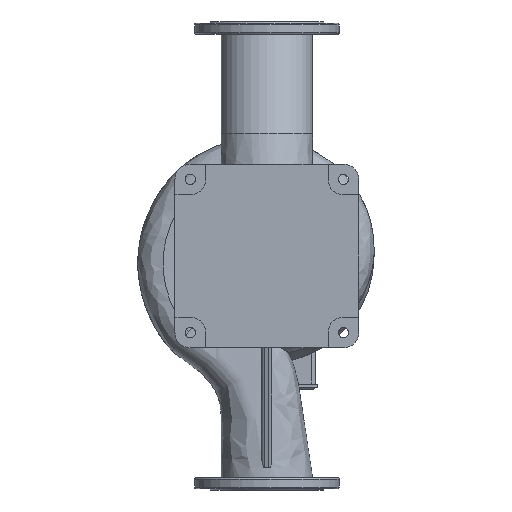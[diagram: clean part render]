
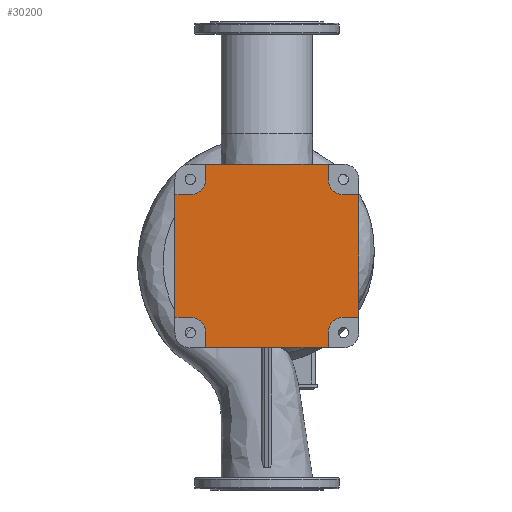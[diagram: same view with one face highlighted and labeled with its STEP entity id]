
A CAD part, front view. The second image highlights one B-rep face of the part: STEP entity #30200.
In plain terms, the highlighted planar face has unit normal (0, -1, 0).
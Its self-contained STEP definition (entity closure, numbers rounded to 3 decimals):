
#178 = DIRECTION ( 'NONE',  ( 0., 1., 0. ) ) ;
#626 = VERTEX_POINT ( 'NONE', #2023 ) ;
#675 = DIRECTION ( 'NONE',  ( 1., 0., 0. ) ) ;
#843 = CARTESIAN_POINT ( 'NONE',  ( 144., -265., -216. ) ) ;
#877 = EDGE_CURVE ( 'NONE', #8133, #20753, #9494, .T. ) ;
#1234 = CARTESIAN_POINT ( 'NONE',  ( 180., -265., -144. ) ) ;
#1287 = ORIENTED_EDGE ( 'NONE', *, *, #11259, .T. ) ;
#1660 = AXIS2_PLACEMENT_3D ( 'NONE', #20801, #178, #10418 ) ;
#1821 = CIRCLE ( 'NONE', #20572, 36. ) ;
#2023 = CARTESIAN_POINT ( 'NONE',  ( 144., -265., -180. ) ) ;
#2226 = CARTESIAN_POINT ( 'NONE',  ( 216., -265., 144. ) ) ;
#2625 = CARTESIAN_POINT ( 'NONE',  ( 144., -265., 216. ) ) ;
#3528 = DIRECTION ( 'NONE',  ( -1., 0., 0. ) ) ;
#3532 = VECTOR ( 'NONE', #29389, 1000. ) ;
#3874 = CARTESIAN_POINT ( 'NONE',  ( -144., -265., -216. ) ) ;
#4565 = CIRCLE ( 'NONE', #17442, 36. ) ;
#4610 = ORIENTED_EDGE ( 'NONE', *, *, #30738, .T. ) ;
#4779 = DIRECTION ( 'NONE',  ( 0., 0., 1. ) ) ;
#4886 = CARTESIAN_POINT ( 'NONE',  ( 216., -265., 144. ) ) ;
#5039 = DIRECTION ( 'NONE',  ( -1., 0., 0. ) ) ;
#5377 = ORIENTED_EDGE ( 'NONE', *, *, #24122, .T. ) ;
#6405 = LINE ( 'NONE', #22466, #31944 ) ;
#6659 = EDGE_CURVE ( 'NONE', #26373, #8133, #24507, .T. ) ;
#6776 = CARTESIAN_POINT ( 'NONE',  ( -180., -265., -144. ) ) ;
#7367 = DIRECTION ( 'NONE',  ( 0., 0., -1. ) ) ;
#7940 = VECTOR ( 'NONE', #5039, 1000. ) ;
#7993 = LINE ( 'NONE', #6776, #17279 ) ;
#8024 = DIRECTION ( 'NONE',  ( 0., 0., -1. ) ) ;
#8128 = VECTOR ( 'NONE', #675, 1000. ) ;
#8133 = VERTEX_POINT ( 'NONE', #29761 ) ;
#8726 = LINE ( 'NONE', #843, #18832 ) ;
#9360 = ORIENTED_EDGE ( 'NONE', *, *, #20375, .T. ) ;
#9481 = LINE ( 'NONE', #15204, #12416 ) ;
#9494 = CIRCLE ( 'NONE', #11663, 36. ) ;
#9975 = DIRECTION ( 'NONE',  ( 0., 1., 0. ) ) ;
#10094 = CARTESIAN_POINT ( 'NONE',  ( 180., -265., -180. ) ) ;
#10418 = DIRECTION ( 'NONE',  ( 0., 0., 1. ) ) ;
#10528 = CARTESIAN_POINT ( 'NONE',  ( -144., -265., -180. ) ) ;
#10988 = CARTESIAN_POINT ( 'NONE',  ( 144., -265., 180. ) ) ;
#11085 = EDGE_CURVE ( 'NONE', #26247, #26736, #15445, .T. ) ;
#11162 = EDGE_CURVE ( 'NONE', #22617, #15493, #8726, .T. ) ;
#11259 = EDGE_CURVE ( 'NONE', #15493, #626, #9481, .T. ) ;
#11414 = EDGE_CURVE ( 'NONE', #20753, #23250, #20720, .T. ) ;
#11663 = AXIS2_PLACEMENT_3D ( 'NONE', #28335, #25816, #20623 ) ;
#12416 = VECTOR ( 'NONE', #4779, 1000. ) ;
#12550 = CARTESIAN_POINT ( 'NONE',  ( -144., -265., -180. ) ) ;
#12556 = CARTESIAN_POINT ( 'NONE',  ( -144., -265., 216. ) ) ;
#13223 = CARTESIAN_POINT ( 'NONE',  ( -144., -265., 180. ) ) ;
#13360 = CARTESIAN_POINT ( 'NONE',  ( 144., -265., 180. ) ) ;
#13560 = LINE ( 'NONE', #13223, #26424 ) ;
#13702 = CARTESIAN_POINT ( 'NONE',  ( -144., -265., 180. ) ) ;
#13816 = EDGE_CURVE ( 'NONE', #626, #26247, #4565, .T. ) ;
#14445 = CARTESIAN_POINT ( 'NONE',  ( 180., -265., 144. ) ) ;
#14502 = DIRECTION ( 'NONE',  ( 0., 0., 1. ) ) ;
#14607 = LINE ( 'NONE', #17449, #7940 ) ;
#14995 = ORIENTED_EDGE ( 'NONE', *, *, #11085, .T. ) ;
#15204 = CARTESIAN_POINT ( 'NONE',  ( 144., -265., -180. ) ) ;
#15278 = EDGE_CURVE ( 'NONE', #30766, #22091, #13560, .T. ) ;
#15445 = LINE ( 'NONE', #32328, #8128 ) ;
#15493 = VERTEX_POINT ( 'NONE', #15829 ) ;
#15829 = CARTESIAN_POINT ( 'NONE',  ( 144., -265., -216. ) ) ;
#15981 = ORIENTED_EDGE ( 'NONE', *, *, #22696, .T. ) ;
#16103 = DIRECTION ( 'NONE',  ( 1., 0., 0. ) ) ;
#16423 = ORIENTED_EDGE ( 'NONE', *, *, #19631, .T. ) ;
#17279 = VECTOR ( 'NONE', #19533, 1000. ) ;
#17346 = EDGE_CURVE ( 'NONE', #29385, #29262, #20542, .T. ) ;
#17442 = AXIS2_PLACEMENT_3D ( 'NONE', #10094, #24847, #17805 ) ;
#17449 = CARTESIAN_POINT ( 'NONE',  ( -180., -265., 144. ) ) ;
#17805 = DIRECTION ( 'NONE',  ( 0., 0., 1. ) ) ;
#17922 = EDGE_CURVE ( 'NONE', #18283, #24914, #6405, .T. ) ;
#18064 = CARTESIAN_POINT ( 'NONE',  ( -180., -265., -144. ) ) ;
#18283 = VERTEX_POINT ( 'NONE', #32014 ) ;
#18747 = EDGE_CURVE ( 'NONE', #24914, #29385, #7993, .T. ) ;
#18804 = CARTESIAN_POINT ( 'NONE',  ( -144., -265., 216. ) ) ;
#18832 = VECTOR ( 'NONE', #16103, 1000. ) ;
#18968 = LINE ( 'NONE', #18804, #23210 ) ;
#19252 = DIRECTION ( 'NONE',  ( 0., 1., 0. ) ) ;
#19533 = DIRECTION ( 'NONE',  ( 1., 0., 0. ) ) ;
#19631 = EDGE_CURVE ( 'NONE', #23250, #30766, #18968, .T. ) ;
#19637 = ORIENTED_EDGE ( 'NONE', *, *, #6659, .T. ) ;
#19650 = ORIENTED_EDGE ( 'NONE', *, *, #11162, .T. ) ;
#19811 = VECTOR ( 'NONE', #23510, 1000. ) ;
#20375 = EDGE_CURVE ( 'NONE', #22091, #28448, #1821, .T. ) ;
#20392 = ORIENTED_EDGE ( 'NONE', *, *, #13816, .T. ) ;
#20542 = CIRCLE ( 'NONE', #26978, 36. ) ;
#20572 = AXIS2_PLACEMENT_3D ( 'NONE', #29667, #19252, #27472 ) ;
#20623 = DIRECTION ( 'NONE',  ( 0., 0., 1. ) ) ;
#20639 = FACE_OUTER_BOUND ( 'NONE', #22704, .T. ) ;
#20720 = LINE ( 'NONE', #10988, #22585 ) ;
#20753 = VERTEX_POINT ( 'NONE', #13360 ) ;
#20752 = DIRECTION ( 'NONE',  ( 0., 0., -1. ) ) ;
#20801 = CARTESIAN_POINT ( 'NONE',  ( -180., -265., -180. ) ) ;
#21043 = CARTESIAN_POINT ( 'NONE',  ( -216., -265., -144. ) ) ;
#21207 = ORIENTED_EDGE ( 'NONE', *, *, #15278, .T. ) ;
#21485 = CARTESIAN_POINT ( 'NONE',  ( -180., -265., 144. ) ) ;
#22091 = VERTEX_POINT ( 'NONE', #13702 ) ;
#22466 = CARTESIAN_POINT ( 'NONE',  ( -216., -265., -144. ) ) ;
#22585 = VECTOR ( 'NONE', #26246, 1000. ) ;
#22606 = LINE ( 'NONE', #10528, #26885 ) ;
#22616 = ORIENTED_EDGE ( 'NONE', *, *, #11414, .T. ) ;
#22617 = VERTEX_POINT ( 'NONE', #3874 ) ;
#22696 = EDGE_CURVE ( 'NONE', #28448, #18283, #14607, .T. ) ;
#22704 = EDGE_LOOP ( 'NONE', ( #29876, #4610, #19650, #1287, #20392, #14995, #5377, #19637, #28472, #22616, #16423, #21207, #9360, #15981, #28611, #29642 ) ) ;
#23210 = VECTOR ( 'NONE', #3528, 1000. ) ;
#23250 = VERTEX_POINT ( 'NONE', #2625 ) ;
#23510 = DIRECTION ( 'NONE',  ( 0., 0., 1. ) ) ;
#23637 = CARTESIAN_POINT ( 'NONE',  ( 216., -265., -144. ) ) ;
#24122 = EDGE_CURVE ( 'NONE', #26736, #26373, #30902, .T. ) ;
#24507 = LINE ( 'NONE', #14445, #3532 ) ;
#24847 = DIRECTION ( 'NONE',  ( 0., 1., 0. ) ) ;
#24914 = VERTEX_POINT ( 'NONE', #21043 ) ;
#25339 = PLANE ( 'NONE',  #1660 ) ;
#25816 = DIRECTION ( 'NONE',  ( 0., 1., 0. ) ) ;
#26246 = DIRECTION ( 'NONE',  ( 0., 0., 1. ) ) ;
#26247 = VERTEX_POINT ( 'NONE', #1234 ) ;
#26373 = VERTEX_POINT ( 'NONE', #2226 ) ;
#26424 = VECTOR ( 'NONE', #8024, 1000. ) ;
#26736 = VERTEX_POINT ( 'NONE', #23637 ) ;
#26885 = VECTOR ( 'NONE', #20752, 1000. ) ;
#26978 = AXIS2_PLACEMENT_3D ( 'NONE', #32804, #9975, #14502 ) ;
#27472 = DIRECTION ( 'NONE',  ( 0., 0., 1. ) ) ;
#28335 = CARTESIAN_POINT ( 'NONE',  ( 180., -265., 180. ) ) ;
#28448 = VERTEX_POINT ( 'NONE', #21485 ) ;
#28472 = ORIENTED_EDGE ( 'NONE', *, *, #877, .T. ) ;
#28611 = ORIENTED_EDGE ( 'NONE', *, *, #17922, .T. ) ;
#29262 = VERTEX_POINT ( 'NONE', #12550 ) ;
#29385 = VERTEX_POINT ( 'NONE', #18064 ) ;
#29389 = DIRECTION ( 'NONE',  ( -1., 0., 0. ) ) ;
#29642 = ORIENTED_EDGE ( 'NONE', *, *, #18747, .T. ) ;
#29667 = CARTESIAN_POINT ( 'NONE',  ( -180., -265., 180. ) ) ;
#29761 = CARTESIAN_POINT ( 'NONE',  ( 180., -265., 144. ) ) ;
#29876 = ORIENTED_EDGE ( 'NONE', *, *, #17346, .T. ) ;
#30200 = ADVANCED_FACE ( 'NONE', ( #20639 ), #25339, .F. ) ;
#30738 = EDGE_CURVE ( 'NONE', #29262, #22617, #22606, .T. ) ;
#30766 = VERTEX_POINT ( 'NONE', #12556 ) ;
#30902 = LINE ( 'NONE', #4886, #19811 ) ;
#31944 = VECTOR ( 'NONE', #7367, 1000. ) ;
#32014 = CARTESIAN_POINT ( 'NONE',  ( -216., -265., 144. ) ) ;
#32328 = CARTESIAN_POINT ( 'NONE',  ( 180., -265., -144. ) ) ;
#32804 = CARTESIAN_POINT ( 'NONE',  ( -180., -265., -180. ) ) ;
